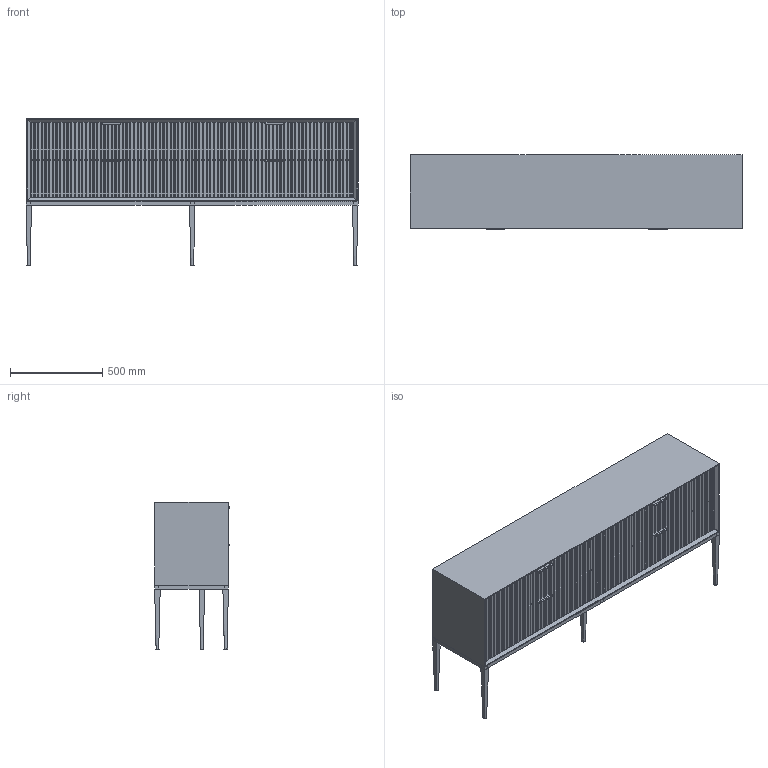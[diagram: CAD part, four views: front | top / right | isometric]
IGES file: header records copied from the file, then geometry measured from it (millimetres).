
Global section: file name: 16HC:\Users\Monika; native system: Rhinoceros ( Feb  8 2022 ); preprocessor: Trout Lake IGES 012 Feb  8 2022; date: 230924.134947; units: millimetre
Bounding box: 1800 x 405.12 x 800 mm (x, y, z)
Surface area: 9593437.2 mm2 (no closed solid volume)
Topology: 0 solids, 0 shells, 3943 faces, 17123 edges, 17125 vertices
Faces by surface type: bspline 3943
